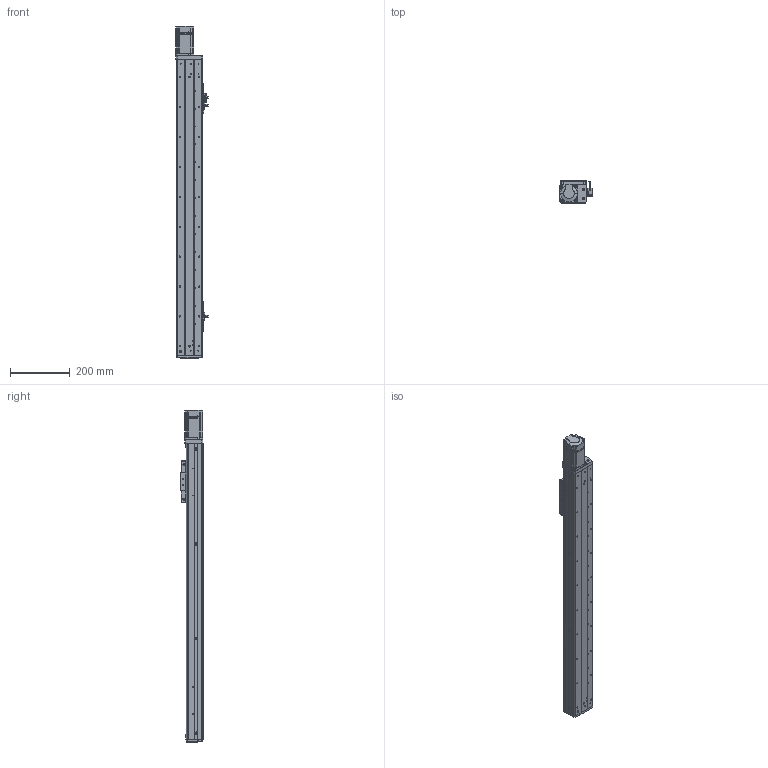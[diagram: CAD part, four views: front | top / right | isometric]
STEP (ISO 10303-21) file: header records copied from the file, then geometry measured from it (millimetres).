
FILE_DESCRIPTION (( 'STEP AP203' ), '1' );
FILE_NAME ('RY80F-L1610-300-MK.SLDASM_750.step', '2021-03-02T03:19:05', ( '盈信电脑' ), ( '东莞市道滘镇水果街19号' ), 'SwSTEP 2.0', 'SolidWorks 2012', '' );
FILE_SCHEMA (( 'CONFIG_CONTROL_DESIGN' ));
Length unit declared in the file: millimetre
Products named in the file (16): RY80俋离覜茼え; 覜茼ん672; RY80F-L1610-300-MK.SLDASM_750; 侂狟200W萇儂; 蚥薯蝶紫輸; 滅袉蝶18-24; 1; RY80F-綴裔啣(臏璃ㄘ; RY80F-詩湍揤踡輸; 672嫖萇羲壽假蚾釱; RY80F-300-祥凄詩湍-MK_750; RY80F-佪裝眻蟀ヶ裔啣(200W PCD70 M4); RY80F-丝杆铝滑块(16丝杆）; RY80F-滅鳥裔啣; RY80F-丝杆直连型材底座_750; RY80F-300丝杆直连型材盖板_750
Assembly tree (21 placements, depth 3):
  RY80F-L1610-300-MK.SLDASM_750
    RY80F-丝杆直连型材底座_750
    RY80F-300丝杆直连型材盖板_750  x2
    RY80F-丝杆铝滑块(16丝杆）
    RY80F-滅鳥裔啣
    RY80F-300-祥凄詩湍-MK_750
    RY80F-佪裝眻蟀ヶ裔啣(200W PCD70 M4)
    RY80F-詩湍揤踡輸  x2
    RY80F-綴裔啣(臏璃ㄘ
    672嫖萇羲壽假蚾釱  x2
    蚥薯蝶紫輸
    滅袉蝶18-24  x2
    侂狟200W萇儂
      1
    RY80俋离覜茼え
    覜茼ん672  x3
Bounding box: 107.2 x 75 x 1110 mm (x, y, z)
Volume: 2086574 mm3; surface area: 827275.4 mm2
Topology: 20 solids, 20 shells, 1742 faces, 4833 edges, 3154 vertices
Faces by surface type: plane 809, cylinder 806, cone 109, bspline 18
Entity records: 50773 total; most frequent: CARTESIAN_POINT 11223, ORIENTED_EDGE 7938, DIRECTION 7811, EDGE_CURVE 3969, AXIS2_PLACEMENT_3D 2744, VERTEX_POINT 2606, LINE 2323, VECTOR 2323
